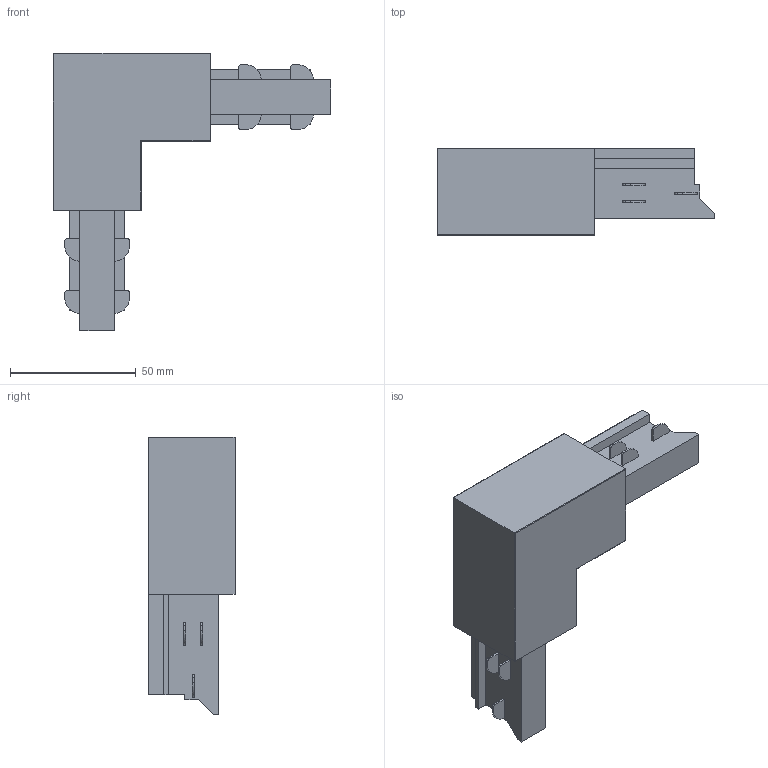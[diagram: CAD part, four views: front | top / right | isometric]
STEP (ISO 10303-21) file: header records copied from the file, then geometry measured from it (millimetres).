
FILE_DESCRIPTION (( 'STEP AP214' ), '1' );
FILE_NAME ('Kehui Track - L joiner.STEP', '2024-05-09T05:53:51', ( '' ), ( '' ), 'SwSTEP 2.0', 'SolidWorks 2021', '' );
FILE_SCHEMA (( 'AUTOMOTIVE_DESIGN' ));
Length unit declared in the file: millimetre
Products named in the file (1): Kehui Track - L joiner
Bounding box: 110.5 x 34.81 x 110.5 mm (x, y, z)
Volume: 143951.8 mm3; surface area: 26310.9 mm2
Topology: 16 solids, 16 shells, 142 faces, 326 edges, 216 vertices
Faces by surface type: plane 110, cylinder 24, bspline 8
Entity records: 4195 total; most frequent: CARTESIAN_POINT 793, ORIENTED_EDGE 652, DIRECTION 632, EDGE_CURVE 326, LINE 266, VECTOR 266, VERTEX_POINT 216, AXIS2_PLACEMENT_3D 183
